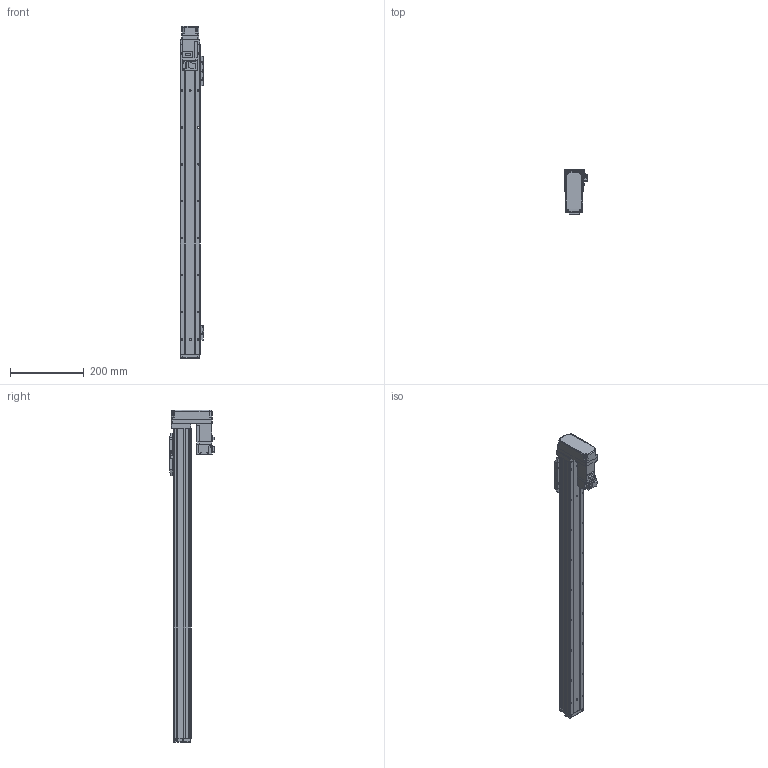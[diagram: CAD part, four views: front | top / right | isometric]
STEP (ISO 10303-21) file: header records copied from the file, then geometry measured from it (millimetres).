
FILE_DESCRIPTION (( 'STEP AP214' ), '1' );
FILE_NAME ('N_GRH5-700-BM-M10.step', '2025-03-14T10:51:11', ( '' ), ( '' ), 'SwSTEP 2.0', 'SolidWorks 2016', '' );
FILE_SCHEMA (( 'AUTOMOTIVE_DESIGN' ));
Length unit declared in the file: millimetre
Products named in the file (5): N_GRH5-GY-011^N_GRH5-700-BM-M10; HF-KP13_100W_Motor^N_GRH5-700-BM-M10; N_GRH5-GY-004^N_GRH5-700-BM-M10; N_GRH5-700-BM-M10; N_GRH5-BL-008^N_GRH5-700-BM-M10
Assembly tree (4 placements, depth 2):
  N_GRH5-700-BM-M10
    N_GRH5-GY-011^N_GRH5-700-BM-M10
    N_GRH5-GY-004^N_GRH5-700-BM-M10
    HF-KP13_100W_Motor^N_GRH5-700-BM-M10
    N_GRH5-BL-008^N_GRH5-700-BM-M10
Bounding box: 64.05 x 123.7 x 900 mm (x, y, z)
Volume: 1647894.8 mm3; surface area: 422049.7 mm2
Topology: 4 solids, 5 shells, 974 faces, 2480 edges, 1573 vertices
Faces by surface type: plane 555, cylinder 344, cone 50, bspline 15, sphere 10
Entity records: 36995 total; most frequent: CARTESIAN_POINT 5793, DIRECTION 5045, ORIENTED_EDGE 4896, EDGE_CURVE 2448, AXIS2_PLACEMENT_3D 1689, VECTOR 1667, LINE 1667, VERTEX_POINT 1571
